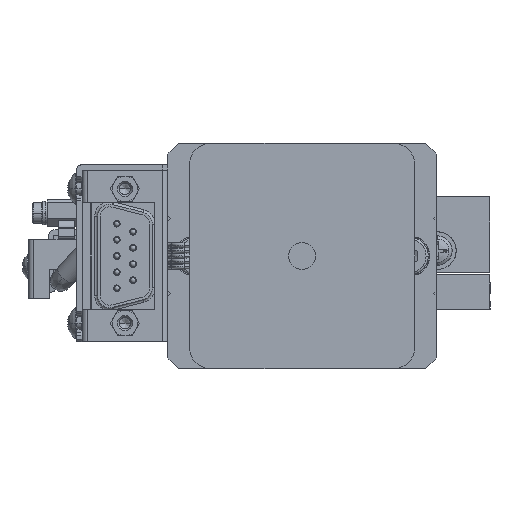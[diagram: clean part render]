
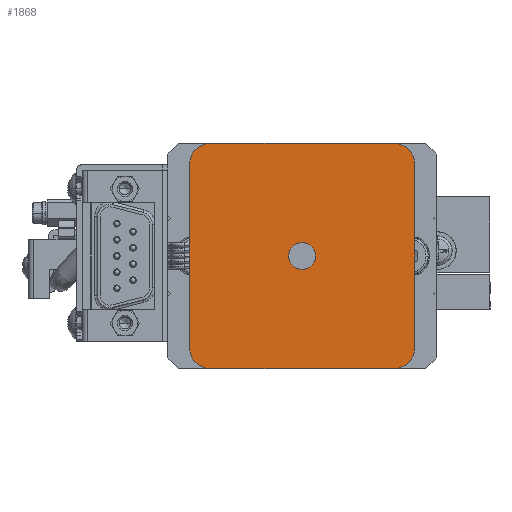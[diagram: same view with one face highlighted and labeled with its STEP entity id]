
A CAD part, left-side view. The second image highlights one B-rep face of the part: STEP entity #1868.
In plain terms, the highlighted planar face has unit normal (-1, 0, 0).
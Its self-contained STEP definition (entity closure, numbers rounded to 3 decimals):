
#1868=ADVANCED_FACE('',(#21028,#21029),#21027,.T.);
#21027=PLANE('',#45127);
#21028=FACE_OUTER_BOUND('',#45128,.T.);
#21029=FACE_BOUND('',#45129,.T.);
#45124=CARTESIAN_POINT('',(-133.,-25.2,35.2));
#45125=DIRECTION('',(-1.,0.,0.));
#45126=DIRECTION('',(0.,1.,0.));
#45127=AXIS2_PLACEMENT_3D('',#45124,#45125,#45126);
#45128=EDGE_LOOP('',(#63404,#63405,#63406,#63407,#63408,#63409,#63410,#63411));
#45129=EDGE_LOOP('',(#63412,#63413));
#63404=ORIENTED_EDGE('',*,*,#74559,.F.);
#63405=ORIENTED_EDGE('',*,*,#74560,.T.);
#63406=ORIENTED_EDGE('',*,*,#74561,.F.);
#63407=ORIENTED_EDGE('',*,*,#74562,.T.);
#63408=ORIENTED_EDGE('',*,*,#74563,.F.);
#63409=ORIENTED_EDGE('',*,*,#74564,.T.);
#63410=ORIENTED_EDGE('',*,*,#74565,.F.);
#63411=ORIENTED_EDGE('',*,*,#74566,.T.);
#63412=ORIENTED_EDGE('',*,*,#74567,.F.);
#63413=ORIENTED_EDGE('',*,*,#74568,.F.);
#74559=EDGE_CURVE('',#109695,#109696,#109697,.T.);
#74560=EDGE_CURVE('',#109695,#109703,#109704,.T.);
#74561=EDGE_CURVE('',#109710,#109703,#109711,.T.);
#74562=EDGE_CURVE('',#109710,#109717,#109718,.T.);
#74563=EDGE_CURVE('',#109724,#109717,#109725,.T.);
#74564=EDGE_CURVE('',#109724,#109731,#109732,.T.);
#74565=EDGE_CURVE('',#109738,#109731,#109739,.T.);
#74566=EDGE_CURVE('',#109738,#109696,#109745,.T.);
#74567=EDGE_CURVE('',#109751,#109752,#109753,.T.);
#74568=EDGE_CURVE('',#109752,#109751,#109759,.T.);
#109695=VERTEX_POINT('',#146067);
#109696=VERTEX_POINT('',#146068);
#109697=LINE('',#146069,#146070);
#109703=VERTEX_POINT('',#146072);
#109704=CIRCLE('',#146076,4.);
#109710=VERTEX_POINT('',#146077);
#109711=LINE('',#146078,#146079);
#109717=VERTEX_POINT('',#146081);
#109718=CIRCLE('',#146085,4.);
#109724=VERTEX_POINT('',#146086);
#109725=LINE('',#146087,#146088);
#109731=VERTEX_POINT('',#146090);
#109732=CIRCLE('',#146094,4.);
#109738=VERTEX_POINT('',#146095);
#109739=LINE('',#146096,#146097);
#109745=CIRCLE('',#146102,4.);
#109751=VERTEX_POINT('',#146103);
#109752=VERTEX_POINT('',#146104);
#109753=CIRCLE('',#146108,2.5);
#109759=CIRCLE('',#146112,2.5);
#146067=CARTESIAN_POINT('',(-133.,17.,31.));
#146068=CARTESIAN_POINT('',(-133.,-17.,31.));
#146069=CARTESIAN_POINT('',(-133.,17.,31.));
#146070=VECTOR('',#146071,34.);
#146071=DIRECTION('',(0.,-1.,0.));
#146072=CARTESIAN_POINT('',(-133.,21.,27.));
#146073=CARTESIAN_POINT('',(-133.,17.,27.));
#146074=DIRECTION('',(-1.,0.,0.));
#146075=DIRECTION('',(0.,-1.,0.));
#146076=AXIS2_PLACEMENT_3D('',#146073,#146074,#146075);
#146077=CARTESIAN_POINT('',(-133.,21.,-7.));
#146078=CARTESIAN_POINT('',(-133.,21.,-7.));
#146079=VECTOR('',#146080,34.);
#146080=DIRECTION('',(0.,0.,1.));
#146081=CARTESIAN_POINT('',(-133.,17.,-11.));
#146082=CARTESIAN_POINT('',(-133.,17.,-7.));
#146083=DIRECTION('',(-1.,0.,0.));
#146084=DIRECTION('',(0.,-1.,0.));
#146085=AXIS2_PLACEMENT_3D('',#146082,#146083,#146084);
#146086=CARTESIAN_POINT('',(-133.,-17.,-11.));
#146087=CARTESIAN_POINT('',(-133.,-17.,-11.));
#146088=VECTOR('',#146089,34.);
#146089=DIRECTION('',(0.,1.,0.));
#146090=CARTESIAN_POINT('',(-133.,-21.,-7.));
#146091=CARTESIAN_POINT('',(-133.,-17.,-7.));
#146092=DIRECTION('',(-1.,0.,0.));
#146093=DIRECTION('',(0.,-1.,0.));
#146094=AXIS2_PLACEMENT_3D('',#146091,#146092,#146093);
#146095=CARTESIAN_POINT('',(-133.,-21.,27.));
#146096=CARTESIAN_POINT('',(-133.,-21.,27.));
#146097=VECTOR('',#146098,34.);
#146098=DIRECTION('',(0.,0.,-1.));
#146099=CARTESIAN_POINT('',(-133.,-17.,27.));
#146100=DIRECTION('',(-1.,0.,0.));
#146101=DIRECTION('',(0.,-1.,0.));
#146102=AXIS2_PLACEMENT_3D('',#146099,#146100,#146101);
#146103=CARTESIAN_POINT('',(-133.,-2.5,10.));
#146104=CARTESIAN_POINT('',(-133.,2.5,10.));
#146105=CARTESIAN_POINT('',(-133.,0.,10.));
#146106=DIRECTION('',(-1.,0.,0.));
#146107=DIRECTION('',(0.,1.,0.));
#146108=AXIS2_PLACEMENT_3D('',#146105,#146106,#146107);
#146109=CARTESIAN_POINT('',(-133.,0.,10.));
#146110=DIRECTION('',(-1.,0.,0.));
#146111=DIRECTION('',(0.,1.,0.));
#146112=AXIS2_PLACEMENT_3D('',#146109,#146110,#146111);
